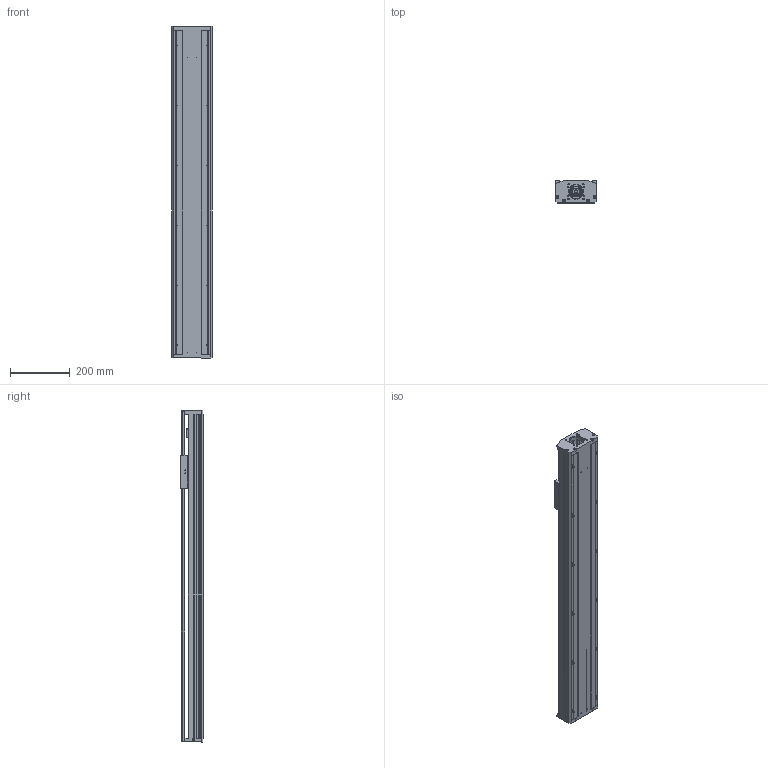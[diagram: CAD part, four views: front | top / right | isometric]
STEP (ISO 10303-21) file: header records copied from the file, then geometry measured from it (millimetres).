
FILE_DESCRIPTION (( 'STEP AP203' ), '1' );
FILE_NAME ('HZMotion TKA136-850A1F0.stp', '2020-06-18T05:50:26', ( 'Micorosoft' ), ( 'Micorosoft' ), 'SwSTEP 2.0', 'SolidWorks 2016', '' );
FILE_SCHEMA (( 'CONFIG_CONTROL_DESIGN' ));
Length unit declared in the file: millimetre
Products named in the file (3): HZMotion  TKA136-850A1F0; 850-01; 850-02
Assembly tree (2 placements, depth 2):
  HZMotion  TKA136-850A1F0
    850-01
    850-02
Bounding box: 136 x 75 x 1107 mm (x, y, z)
Volume: 3437710.7 mm3; surface area: 1275440.5 mm2
Topology: 2 solids, 12 shells, 1070 faces, 3041 edges, 1949 vertices
Faces by surface type: cylinder 585, plane 385, cone 100
Entity records: 37802 total; most frequent: CARTESIAN_POINT 9325, DIRECTION 5971, ORIENTED_EDGE 5962, EDGE_CURVE 2981, AXIS2_PLACEMENT_3D 2247, VERTEX_POINT 1949, LINE 1477, VECTOR 1477
